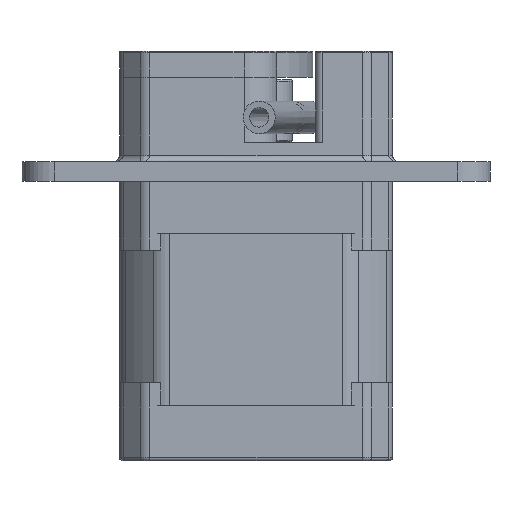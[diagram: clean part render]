
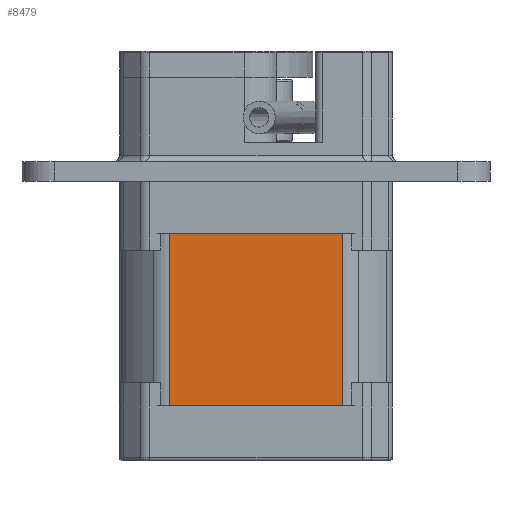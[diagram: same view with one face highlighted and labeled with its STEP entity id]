
A CAD part, front view. The second image highlights one B-rep face of the part: STEP entity #8479.
In plain terms, the highlighted planar face has unit normal (0, -1, 0).
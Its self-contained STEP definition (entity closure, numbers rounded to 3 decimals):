
#60 = VERTEX_POINT ( 'NONE', #4924 ) ;
#765 = DIRECTION ( 'NONE',  ( 0., 0., 1. ) ) ;
#931 = VECTOR ( 'NONE', #9225, 1000. ) ;
#1069 = ORIENTED_EDGE ( 'NONE', *, *, #17606, .F. ) ;
#2237 = VECTOR ( 'NONE', #17038, 1000. ) ;
#2385 = CARTESIAN_POINT ( 'NONE',  ( 2.93, 83.617, 7.7 ) ) ;
#2445 = CARTESIAN_POINT ( 'NONE',  ( -23.721, 83.617, 7.7 ) ) ;
#2631 = CARTESIAN_POINT ( 'NONE',  ( -23.721, 83.617, 34.2 ) ) ;
#2763 = AXIS2_PLACEMENT_3D ( 'NONE', #3946, #16865, #15223 ) ;
#2765 = EDGE_CURVE ( 'NONE', #7977, #11870, #10971, .T. ) ;
#3946 = CARTESIAN_POINT ( 'NONE',  ( -23.721, 83.617, 7.7 ) ) ;
#4924 = CARTESIAN_POINT ( 'NONE',  ( -23.721, 83.617, 34.2 ) ) ;
#5173 = ORIENTED_EDGE ( 'NONE', *, *, #16775, .T. ) ;
#5284 = LINE ( 'NONE', #12211, #931 ) ;
#5751 = LINE ( 'NONE', #2445, #19878 ) ;
#5875 = DIRECTION ( 'NONE',  ( 1., 0., 0. ) ) ;
#7677 = CARTESIAN_POINT ( 'NONE',  ( -23.721, 83.617, 7.7 ) ) ;
#7977 = VERTEX_POINT ( 'NONE', #2385 ) ;
#8028 = VECTOR ( 'NONE', #5875, 1000. ) ;
#8479 = ADVANCED_FACE ( 'NONE', ( #15402 ), #12131, .T. ) ;
#9225 = DIRECTION ( 'NONE',  ( 1., 0., 0. ) ) ;
#9248 = ORIENTED_EDGE ( 'NONE', *, *, #2765, .T. ) ;
#10289 = CARTESIAN_POINT ( 'NONE',  ( 2.93, 83.617, 7.7 ) ) ;
#10841 = ORIENTED_EDGE ( 'NONE', *, *, #18468, .F. ) ;
#10971 = LINE ( 'NONE', #10289, #2237 ) ;
#11314 = VERTEX_POINT ( 'NONE', #7677 ) ;
#11870 = VERTEX_POINT ( 'NONE', #18920 ) ;
#12131 = PLANE ( 'NONE',  #2763 ) ;
#12211 = CARTESIAN_POINT ( 'NONE',  ( -23.721, 83.617, 7.7 ) ) ;
#15223 = DIRECTION ( 'NONE',  ( 0., 0., -1. ) ) ;
#15402 = FACE_OUTER_BOUND ( 'NONE', #18796, .T. ) ;
#15731 = LINE ( 'NONE', #2631, #8028 ) ;
#16775 = EDGE_CURVE ( 'NONE', #11314, #7977, #5284, .T. ) ;
#16865 = DIRECTION ( 'NONE',  ( 0., -1., 0. ) ) ;
#17038 = DIRECTION ( 'NONE',  ( 0., 0., 1. ) ) ;
#17606 = EDGE_CURVE ( 'NONE', #11314, #60, #5751, .T. ) ;
#18468 = EDGE_CURVE ( 'NONE', #60, #11870, #15731, .T. ) ;
#18796 = EDGE_LOOP ( 'NONE', ( #10841, #1069, #5173, #9248 ) ) ;
#18920 = CARTESIAN_POINT ( 'NONE',  ( 2.93, 83.617, 34.2 ) ) ;
#19878 = VECTOR ( 'NONE', #765, 1000. ) ;
